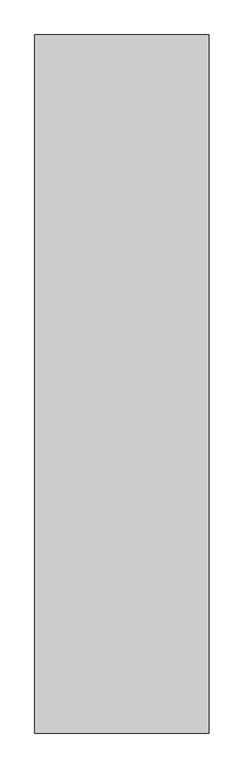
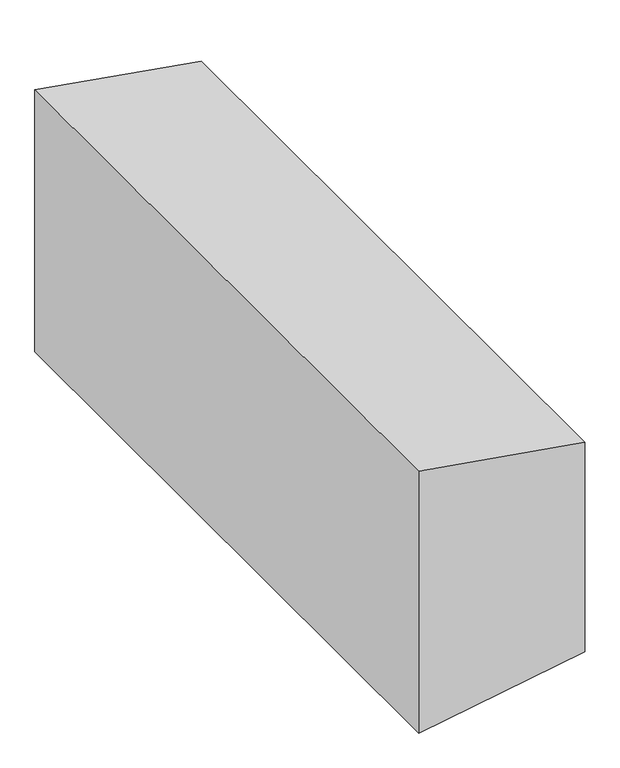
"""IFC4 building model written with IfcOpenShell, lengths in millimetres: duct fitting geometry, ADSK_ПереходникВоздуховодов_Прямоугольный1 : Стандартное 2."""

from ifc_helpers import new_model, si_unit, frame, origin, place, context, project, spatial, polyline, outline, extrude, source, transform, mapped, element, save


def duct_fitting_01e88b05(model_context):
    return source(origin(), model_context, "Body", "SweptSolid", [
        extrude(outline(polyline([(250.0, 0.0), (-250.0, 0.0), (-200.0, 300.0), (200.0, 300.0), (250.0, 0.0)])), frame((0.0, -600.0, 0.0), z_axis=(0.0, 1.0, 0.0), x_axis=(0.0, 0.0, 1.0)), (0.0, 0.0, 1.0), 1200.0),
    ])


if __name__ == "__main__":
    model = new_model("IFC4")
    model_context = context("Model", 3, world=origin())
    ifc_project = project(units=[si_unit("LENGTHUNIT", "METRE", prefix="MILLI")], contexts=[model_context])
    site = spatial("IfcSite", under=ifc_project)
    building = spatial("IfcBuilding", under=site)
    placement = place(None, origin())
    duct_fitting_shape = duct_fitting_01e88b05(model_context)
    element("IfcDuctFitting", 1, ObjectType="ADSK_ПереходникВоздуховодов_Прямоугольный1 : Стандартное 2", at=placement, inside=building, context=model_context, shape_type="MappedRepresentation", body=[
        mapped(duct_fitting_shape, transform((0.0, 0.0, 0.0), x_axis=(1.0, 0.0, 0.0), y_axis=(0.0, 1.0, 0.0), z_axis=(0.0, 0.0, 1.0))),
    ])
    save(model, "model.ifc")
